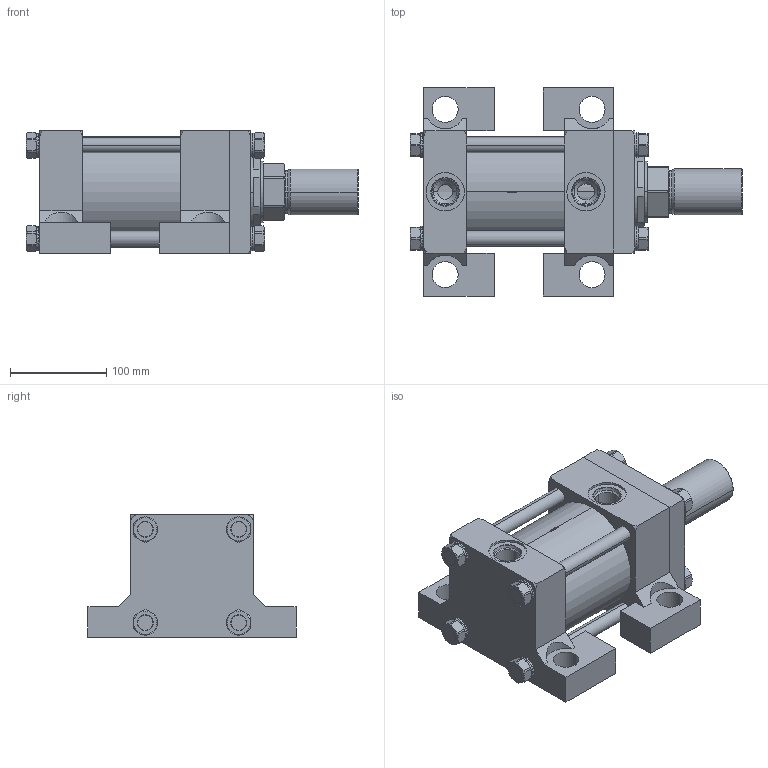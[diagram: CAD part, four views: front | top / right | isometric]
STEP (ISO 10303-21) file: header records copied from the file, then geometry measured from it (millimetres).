
FILE_DESCRIPTION (( 'STEP AP214' ), '1' );
FILE_NAME ('4.00C2HHNAT124A2.000.step', '2026-03-26T21:12:48', ( '' ), ( '' ), 'SwSTEP 2.0', 'SolidWorks 2023', '' );
FILE_SCHEMA (( 'AUTOMOTIVE_DESIGN' ));
Length unit declared in the file: inch
Products named in the file (1): 4.00C2HHNAT124A2.000
Bounding box: 344.49 x 215.9 x 127 mm (x, y, z)
Volume: 3232006.1 mm3; surface area: 514479.4 mm2
Topology: 44 solids, 44 shells, 1214 faces, 3132 edges, 2014 vertices
Faces by surface type: plane 802, cylinder 219, cone 163, bspline 22, torus 8
Entity records: 54847 total; most frequent: CARTESIAN_POINT 10690, ORIENTED_EDGE 6264, DIRECTION 5188, EDGE_CURVE 3132, VERTEX_POINT 2014, AXIS2_PLACEMENT_3D 1763, VECTOR 1662, LINE 1662
